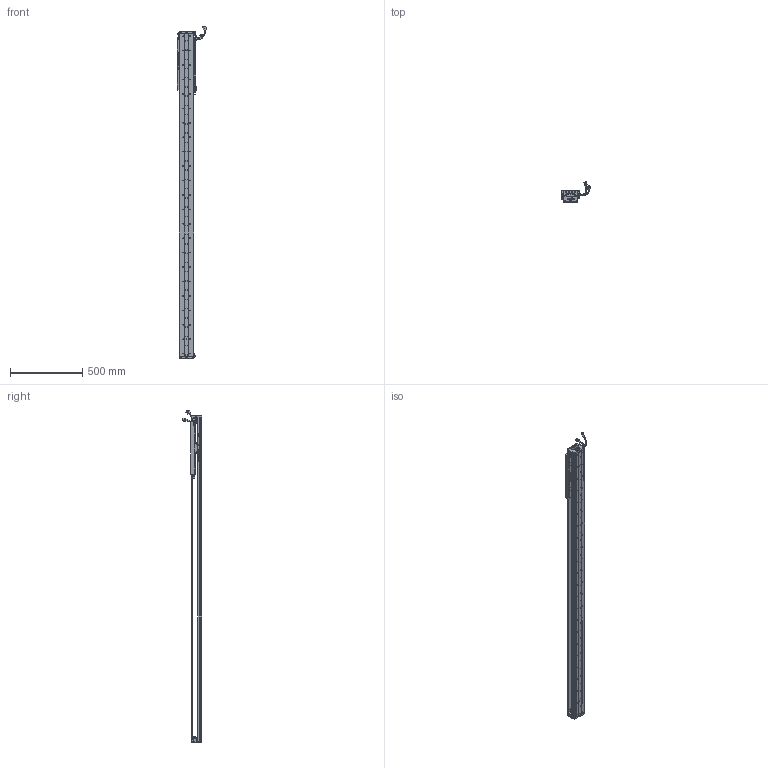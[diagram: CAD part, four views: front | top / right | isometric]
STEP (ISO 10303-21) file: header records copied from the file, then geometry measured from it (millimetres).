
FILE_DESCRIPTION (( 'STEP AP203' ), '1' );
FILE_NAME ('Z5-RY100D-1-L500-B-K.SLDASM_1800.step', '2021-05-17T03:34:04', ( '盈信电脑' ), ( '东莞市道滘镇水果街19号' ), 'SwSTEP 2.0', 'SolidWorks 2016', '' );
FILE_SCHEMA (( 'CONFIG_CONTROL_DESIGN' ));
Length unit declared in the file: millimetre
Products named in the file (36): SHIELDPLATE; LABEL-Part-1; COVER; Z-100詩湍傷裔啣; SCREW-M1.6; PSLH080_PSLF2; HARNESS-Part-1; Z-RY100D覜茼んえ; HOLDER0; SCALE-Part-1; COVER-Part-1; Z-RY100D詩湍奻揤裔; Z5-RY100D-1-L500-B-K.SLDASM_1800; 080黍杅芛假蚾釱21遴; 140雄赽晤鎢ん堤盄; SCALE-Part-2; LABEL; SCREW-M1.6-2; HARNESS-Part-2; SCREW-M1.6-3; Z5-RY100-L500詩湍90mm遵_1800; SCREW-M1.7; SEAL; HARNESS; SEAL-Part-1; SCREW-M1.6-1; SCALE; 榋妏寠巭燃_暯_M2_2; Z-RY100D詩湍狟揤裔; 140蚥薯蝶輸; 100-Z-臏賑輸盄裔(21遴); Z5-RY100D-500-倰第菁釱_1800; 覜茼ん672; SCREW-M1.7-1; Z5-RY100铝滑块（21款）; PBU_SHEET
Assembly tree (43 placements, depth 4):
  Z5-RY100D-1-L500-B-K.SLDASM_1800
    Z5-RY100D-500-倰第菁釱_1800
    Z5-RY100铝滑块（21款）
    PSLH080_PSLF2
      SCALE
        SCALE-Part-1
        SCALE-Part-2
      HARNESS
        HARNESS-Part-1
        HARNESS-Part-2
      LABEL
        LABEL-Part-1
      COVER
        COVER-Part-1
      SEAL
        SEAL-Part-1
      榋妏寠巭燃_暯_M2_2
      SHIELDPLATE
      SCREW-M1.7
      SCREW-M1.7-1
      PBU_SHEET
      SCREW-M1.6
      SCREW-M1.6-1
      SCREW-M1.6-2
      SCREW-M1.6-3
      HOLDER0
    080黍杅芛假蚾釱21遴
    Z-100詩湍傷裔啣  x2
    140蚥薯蝶輸  x2
    覜茼ん672  x3
    Z-RY100D覜茼んえ  x3
    100-Z-臏賑輸盄裔(21遴)
    140雄赽晤鎢ん堤盄
    Z5-RY100-L500詩湍90mm遵_1800
    Z-RY100D詩湍狟揤裔  x2
    Z-RY100D詩湍奻揤裔  x2
Bounding box: 205.84 x 136.11 x 2300.43 mm (x, y, z)
Volume: 4508472.8 mm3; surface area: 1733807.5 mm2
Topology: 38 solids, 38 shells, 2927 faces, 7921 edges, 5048 vertices
Faces by surface type: cylinder 1406, plane 1173, cone 226, torus 69, bspline 53
Entity records: 83703 total; most frequent: CARTESIAN_POINT 17535, DIRECTION 13463, ORIENTED_EDGE 12722, EDGE_CURVE 6361, AXIS2_PLACEMENT_3D 5044, VERTEX_POINT 4116, VECTOR 3375, LINE 3375
